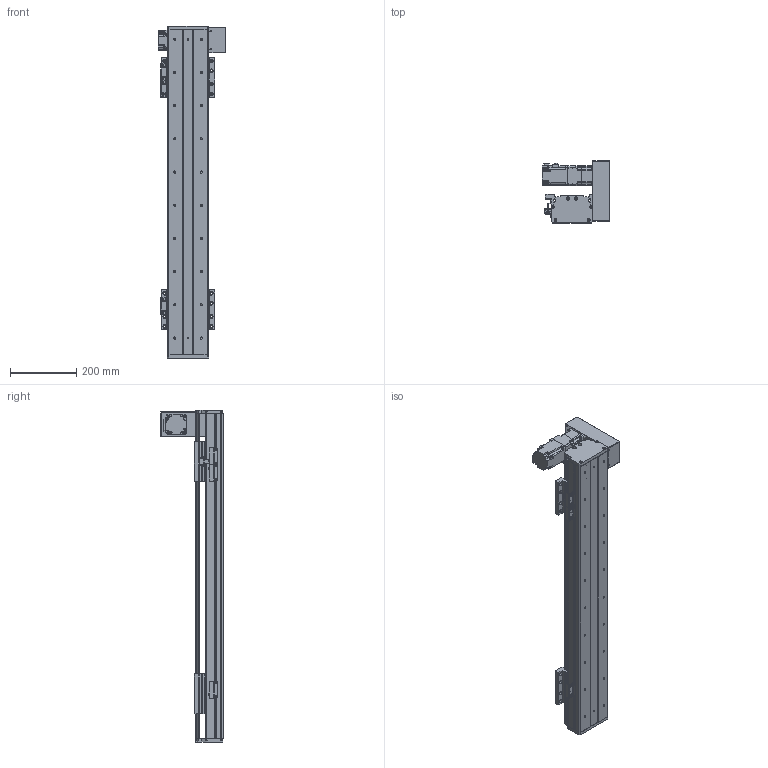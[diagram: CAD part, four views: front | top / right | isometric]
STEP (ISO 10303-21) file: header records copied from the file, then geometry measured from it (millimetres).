
FILE_DESCRIPTION(/* description */ (''),/* implementation_level */ '2;1');
FILE_NAME(/* name */ 'C:\Users\PC\Desktop\3D도면\STEP\DSB125-UR2G-W0700-L.stp',/* time_stamp */ '2018-06-19T16:52:04+09:00',/* author */ ('PC'),/* organization */ (''),/* preprocessor_version */ 'ST-DEVELOPER v16.5',/* originating_system */ 'Autodesk Inventor 2017',/* authorisation */ '');
FILE_SCHEMA (('AUTOMOTIVE_DESIGN { 1 0 10303 214 3 1 1 }'));
Length unit declared in the file: millimetre
Products named in the file (12): DSB125-UL2G-W0700-R_MIR; DSB125-BASE_MIR; DSB125-UP COVER_MIR; DSB125-FRONT COVER_MIR; DSB125-REAR COVER_MIR; hg-kr23__MIR; ab0601-p0401200402_MIR; 13-BELT COVER_MIR; DSR125-SENSOR DOG_MIR; SENSOR BRACKET(EE-SX674A)_MIR; pm-y65_step_MIR; DSB125-TABLE(MSB15S)_MIR
Assembly tree (16 placements, depth 2):
  DSB125-UL2G-W0700-R_MIR
    DSB125-BASE_MIR
    DSB125-UP COVER_MIR
    DSB125-FRONT COVER_MIR
    DSB125-REAR COVER_MIR
    hg-kr23__MIR
    ab0601-p0401200402_MIR
    13-BELT COVER_MIR
    DSR125-SENSOR DOG_MIR
    SENSOR BRACKET(EE-SX674A)_MIR  x3
    pm-y65_step_MIR  x3
    DSB125-TABLE(MSB15S)_MIR  x2
Bounding box: 202.1 x 187 x 1000 mm (x, y, z)
Volume: 3977591.6 mm3; surface area: 1147483.8 mm2
Topology: 17 solids, 17 shells, 1651 faces, 4480 edges, 2954 vertices
Faces by surface type: plane 903, cylinder 626, cone 110, sphere 8, torus 4
Full cylindrical faces by diameter (mm): 2.459 x20, 3.242 x16, 3.5 x6, 4 x1, 4.134 x16, 4.2 x4, 4.3 x1, 4.5 x50, 4.917 x20, 5 x22, 5.3 x1, 5.5 x4, 5.6 x8, 5.8 x4, 5.9 x8, 6 x4, 6.6 x22, 6.647 x20, 7.5 x32, 8.5 x8, 8.7 x1, 11 x22, 14 x1, 16 x2, 17 x1, 20 x1, 47 x1, 50 x3
Entity records: 35801 total; most frequent: CARTESIAN_POINT 6459, DIRECTION 6074, ORIENTED_EDGE 5458, EDGE_CURVE 2729, AXIS2_PLACEMENT_3D 2225, VERTEX_POINT 1938, EDGE_LOOP 1653, LINE 1624
